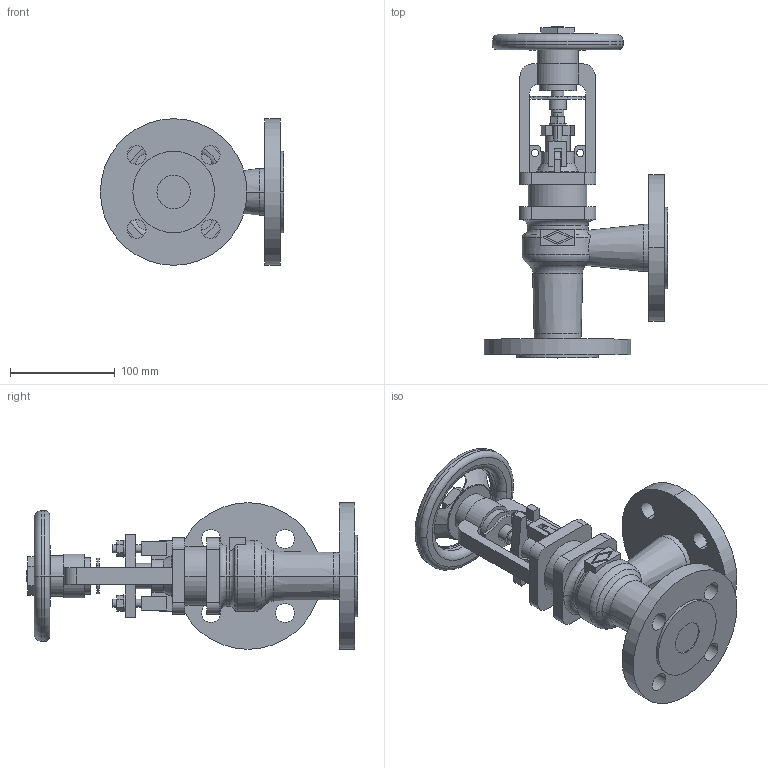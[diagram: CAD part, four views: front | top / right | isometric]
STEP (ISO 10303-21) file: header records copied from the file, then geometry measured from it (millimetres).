
FILE_DESCRIPTION(('OneSpaceDesigner STEP Export'),'2;1');
FILE_NAME('c000004437.stp','2010-05-17T 9:37:40',(''),(''),'OneSpace Designer STEP processor for AP214 (Solid Model)','OneSpace Modeling 15.50B 03-Nov-2007 (C) CoCreate Software GmbH','');
FILE_SCHEMA(('AUTOMOTIVE_DESIGN { 1 0 10303 214 1 1 1 1 }'));
Length unit declared in the file: millimetre
Products named in the file (1): 1
Bounding box: 175 x 317 x 140 mm (x, y, z)
Volume: 1234120.7 mm3; surface area: 193811.8 mm2
Topology: 1 solids, 1 shells, 297 faces, 782 edges, 510 vertices
Faces by surface type: plane 140, cylinder 115, torus 26, cone 16
Entity records: 11565 total; most frequent: CARTESIAN_POINT 2156, ORIENTED_EDGE 1564, DIRECTION 1321, EDGE_CURVE 782, VERTEX_POINT 510, AXIS2_PLACEMENT_3D 448, VECTOR 425, LINE 425
